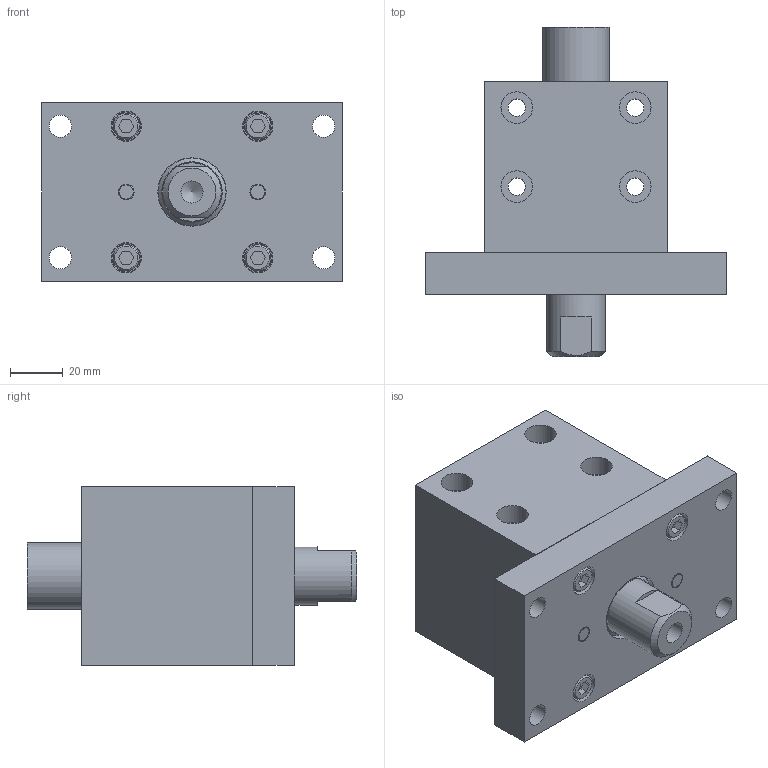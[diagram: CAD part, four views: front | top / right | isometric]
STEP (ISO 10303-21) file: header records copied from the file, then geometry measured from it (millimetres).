
FILE_DESCRIPTION(/* description */ ('PASS THRU GROUND UNIT'),/* implementation_level */ '2;1');
FILE_NAME(/* name */ 'C:\Vault Workspace\CAD\Welker\Cylinders\GBS\GBS0.stp',/* time_stamp */ '2021-06-24T14:08:07-04:00',/* author */ ('KPL'),/* organization */ (''),/* preprocessor_version */ 'ST-DEVELOPER v18.1',/* originating_system */ 'Autodesk Inventor 2020',/* authorisation */ '');
FILE_SCHEMA (('AUTOMOTIVE_DESIGN { 1 0 10303 214 3 1 1 }'));
Products named in the file (10): GBSL01; AN-09U2145; AN-07U2145; 6mmX25 ; M3X0.5-10 SHCS; M6X1-20 SHCS; NL6; GBSE01; GBSE02; GBSE03
Assembly tree (16 placements, depth 2):
  GBSL01
    AN-09U2145
    AN-07U2145
    6mmX25   x2
    M3X0.5-10 SHCS
    M6X1-20 SHCS  x4
    NL6  x4
    GBSE01
    GBSE02
    GBSE03
Bounding box: 114.3 x 125 x 68 mm (x, y, z)
Volume: 396845.5 mm3; surface area: 85698.8 mm2
Topology: 16 solids, 16 shells, 198 faces, 460 edges, 323 vertices
Faces by surface type: plane 103, cylinder 66, cone 27, torus 2
Full cylindrical faces by diameter (mm): 3 x1, 4.917 x4, 5.5 x1, 6 x10, 6.5 x8, 6.647 x4, 8 x2, 8.376 x1, 8.5 x4, 10 x4, 10.8 x4, 11.5 x4, 12 x4, 15.875 x1, 22.225 x1, 22.352 x1, 25.4 x2, 25.984 x1, 26.162 x1, 28.575 x1, 29.134 x1, 29.159 x1, 29.185 x1, 32.258 x1, 32.309 x1, 36.5 x2
Entity records: 4844 total; most frequent: DIRECTION 865, CARTESIAN_POINT 758, ORIENTED_EDGE 678, AXIS2_PLACEMENT_3D 363, EDGE_CURVE 339, VERTEX_POINT 250, EDGE_LOOP 209, CIRCLE 198
